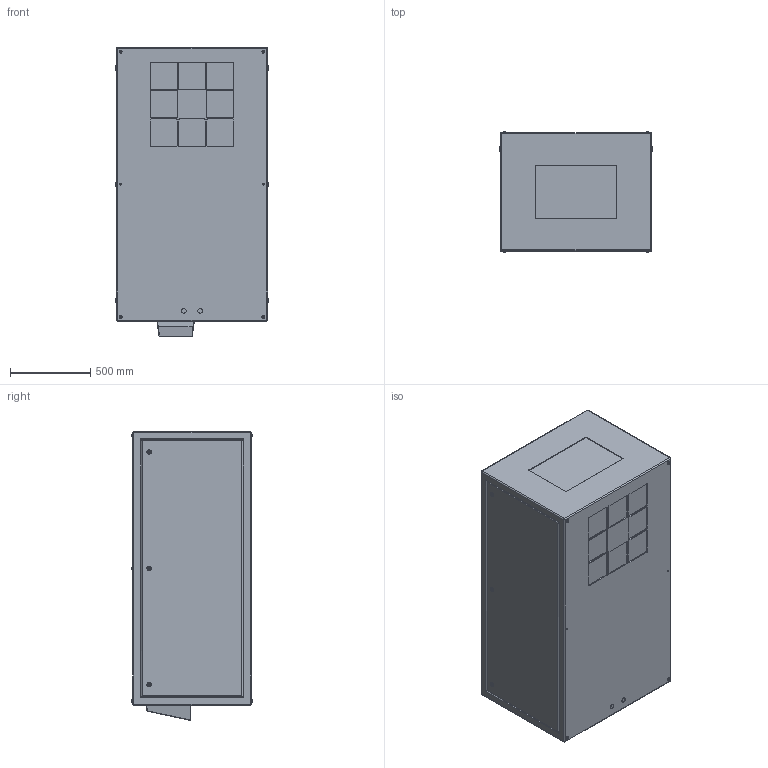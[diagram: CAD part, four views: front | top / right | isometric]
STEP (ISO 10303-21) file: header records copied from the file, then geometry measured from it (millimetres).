
FILE_DESCRIPTION (( 'STEP AP214' ), '1' );
FILE_NAME ('Cyclone 55.525.L.xx R08.STEP', '2020-05-08T00:56:13', ( '' ), ( '' ), 'SwSTEP 2.0', 'SolidWorks 2018', '' );
FILE_SCHEMA (( 'AUTOMOTIVE_DESIGN' ));
Length unit declared in the file: inch
Products named in the file (1): Cyclone 55.525.L.xx R08
Bounding box: 952.5 x 751.33 x 1797.05 mm (x, y, z)
Volume: 1175261207.9 mm3; surface area: 7756544.3 mm2
Topology: 1 solids, 1 shells, 479 faces, 1118 edges, 712 vertices
Faces by surface type: plane 257, cylinder 170, torus 44, sphere 8
Entity records: 17242 total; most frequent: DIRECTION 2450, CARTESIAN_POINT 2350, ORIENTED_EDGE 2220, EDGE_CURVE 1110, AXIS2_PLACEMENT_3D 876, VERTEX_POINT 712, LINE 698, VECTOR 698
